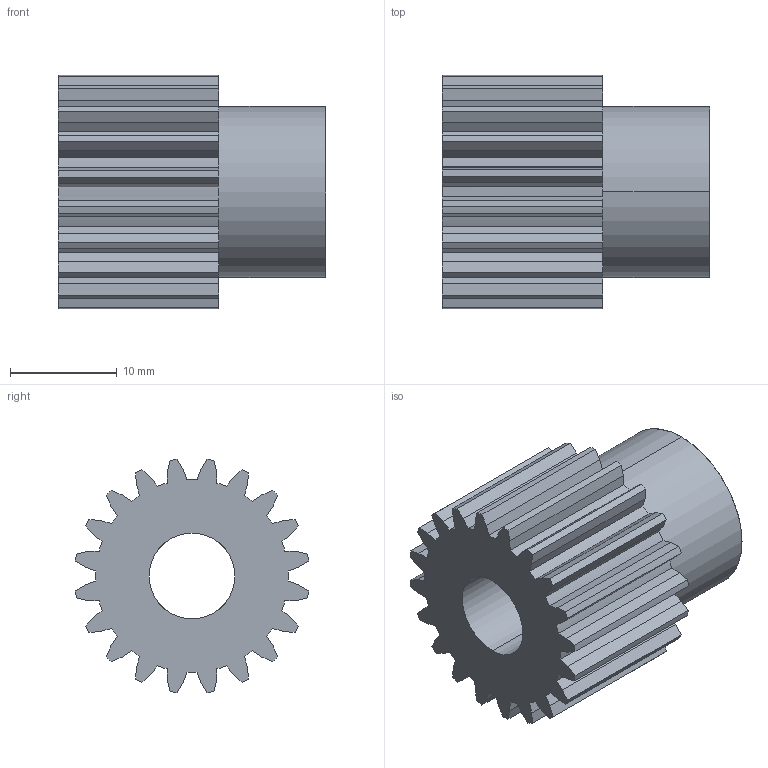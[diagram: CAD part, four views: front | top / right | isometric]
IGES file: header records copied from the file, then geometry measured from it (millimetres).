
Start section: SolidWorks IGES file using analytic representation for surfaces
Global section: file name: C:\Users\Honza\Desktop\Matis (Hotove)\Èelní ozubená kola\PM\MODUL 1\PM 26020.IGS; native system: SolidWorks 2010; preprocessor: SolidWorks 2010; author: Honza; date: 130923.142434; units: millimetre
Bounding box: 25 x 21.82 x 21.82 mm (x, y, z)
Surface area: 3417.8 mm2 (no closed solid volume)
Topology: 0 solids, 0 shells, 127 faces, 864 edges, 864 vertices
Faces by surface type: bspline 83, revolution 44
